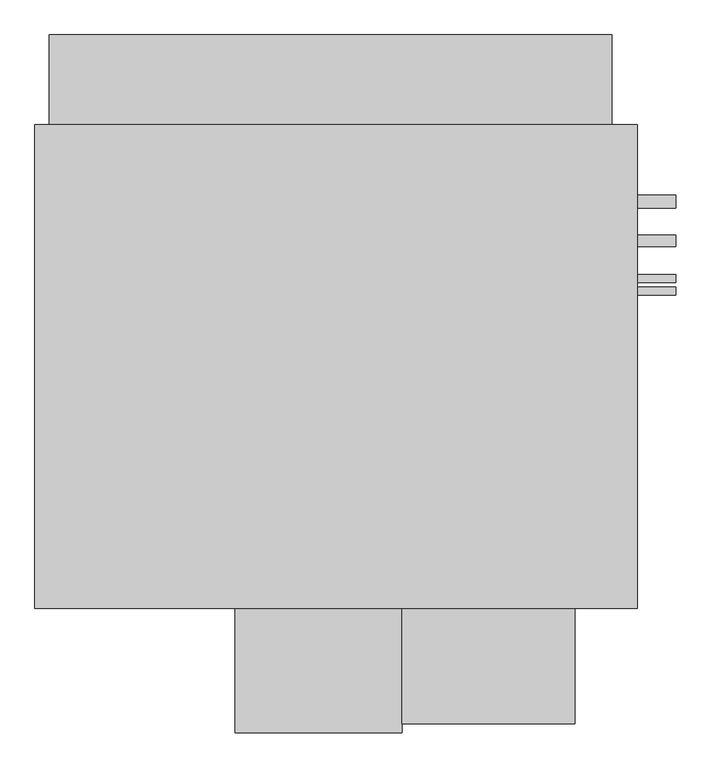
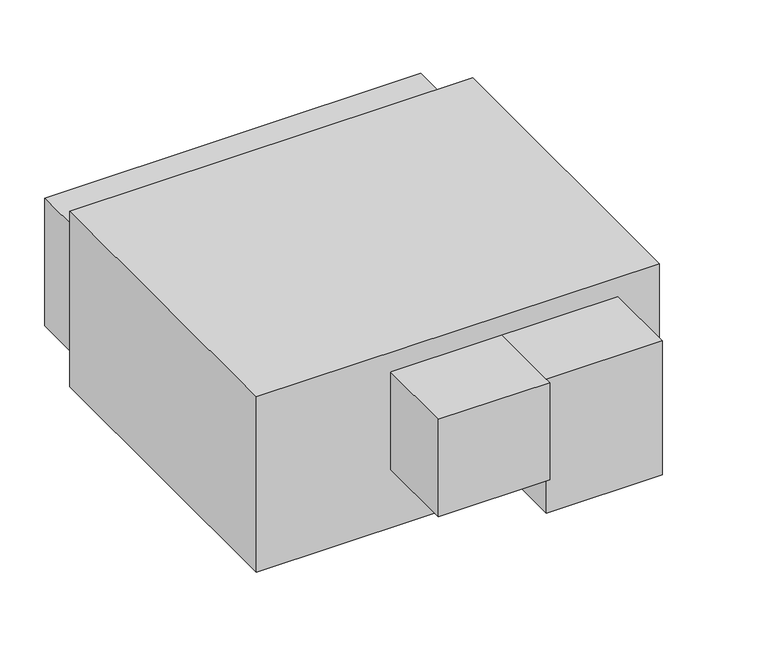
"""IFC4 building model written with IfcOpenShell, lengths in millimetres: proxy geometry, Horizontal_Direct_Drive_Blower_Coil_Unit_-_42DHA_-_CARRIER_-_4-Pipe_RH_2022 : Size 16 - 460v/60Hz/3Ph - 6/2 Coil."""

from ifc_helpers import new_model, si_unit, point, frame, frame_2d, origin, place, context, project, spatial, polyline, circle_curve, trimmed, segment, composite_curve, outline, extrude, source, transform, mapped, element, save


def mechanical_equipment_c9cec046(model_context):
    return source(origin(), model_context, "Body", "SweptSolid", [
        extrude(outline(polyline([(127.0, 492.125), (127.0, -466.725), (-1066.8, -466.725), (-1066.8, 492.125), (127.0, 492.125)])), frame((0.0, 0.0, -549.2558174), z_axis=(0.0, 0.0, 1.0), x_axis=(1.0, 0.0, 0.0)), (0.0, 0.0, 1.0), 549.2558174),
        extrude(outline(polyline([(3.175, -695.325), (-339.725, -695.325), (-339.725, -466.725), (3.175, -466.725), (3.175, -695.325)])), frame((0.0, 0.0, -479.4058174), z_axis=(0.0, 0.0, 1.0), x_axis=(1.0, 0.0, 0.0)), (0.0, 0.0, 1.0), 419.1),
        extrude(outline(composite_curve([segment(trimmed(circle_curve(frame_2d((339.725, -180.7500418)), 12.7), [point((352.425, -180.7500418))], [point((327.025, -180.7500418))], False, "CARTESIAN"), True, "CONTINUOUS"), segment(trimmed(circle_curve(frame_2d((339.725, -180.7500418)), 12.7), [point((327.025, -180.7500418))], [point((352.425, -180.7500418))], False, "CARTESIAN"), True, "CONTINUOUS")], self_intersect=False)), frame((127.0, 0.0, 0.0), z_axis=(1.0, 0.0, 0.0), x_axis=(0.0, 1.0, 0.0)), (0.0, 0.0, 1.0), 76.2),
        extrude(outline(composite_curve([segment(trimmed(circle_curve(frame_2d((339.725, -422.2558174)), 12.7), [point((352.425, -422.2558174))], [point((327.025, -422.2558174))], False, "CARTESIAN"), True, "CONTINUOUS"), segment(trimmed(circle_curve(frame_2d((339.725, -422.2558174)), 12.7), [point((327.025, -422.2558174))], [point((352.425, -422.2558174))], False, "CARTESIAN"), True, "CONTINUOUS")], self_intersect=False)), frame((127.0, 0.0, 0.0), z_axis=(1.0, 0.0, 0.0), x_axis=(0.0, 1.0, 0.0)), (0.0, 0.0, 1.0), 76.2),
        extrude(outline(composite_curve([segment(trimmed(circle_curve(frame_2d((261.7604089, -504.8058174)), 11.1125), [point((272.8729089, -504.8058174))], [point((250.6479089, -504.8058174))], False, "CARTESIAN"), True, "CONTINUOUS"), segment(trimmed(circle_curve(frame_2d((261.7604089, -504.8058174)), 11.1125), [point((250.6479089, -504.8058174))], [point((272.8729089, -504.8058174))], False, "CARTESIAN"), True, "CONTINUOUS")], self_intersect=False)), frame((127.0, 0.0, 0.0), z_axis=(1.0, 0.0, 0.0), x_axis=(0.0, 1.0, 0.0)), (0.0, 0.0, 1.0), 76.2),
        extrude(outline(composite_curve([segment(trimmed(circle_curve(frame_2d((187.325, -231.7558174)), 7.9375), [point((195.2625, -231.7558174))], [point((179.3875, -231.7558174))], False, "CARTESIAN"), True, "CONTINUOUS"), segment(trimmed(circle_curve(frame_2d((187.325, -231.7558174)), 7.9375), [point((179.3875, -231.7558174))], [point((195.2625, -231.7558174))], False, "CARTESIAN"), True, "CONTINUOUS")], self_intersect=False)), frame((127.0, 0.0, 0.0), z_axis=(1.0, 0.0, 0.0), x_axis=(0.0, 1.0, 0.0)), (0.0, 0.0, 1.0), 76.2),
        extrude(outline(composite_curve([segment(trimmed(circle_curve(frame_2d((161.925, -371.4558174)), 7.9375), [point((169.8625, -371.4558174))], [point((153.9875, -371.4558174))], False, "CARTESIAN"), True, "CONTINUOUS"), segment(trimmed(circle_curve(frame_2d((161.925, -371.4558174)), 7.9375), [point((153.9875, -371.4558174))], [point((169.8625, -371.4558174))], False, "CARTESIAN"), True, "CONTINUOUS")], self_intersect=False)), frame((127.0, 0.0, 0.0), z_axis=(1.0, 0.0, 0.0), x_axis=(0.0, 1.0, 0.0)), (0.0, 0.0, 1.0), 76.2),
        extrude(outline(polyline([(-1038.225, 669.925), (76.2, 669.925), (76.2, 492.125), (-1038.225, 492.125), (-1038.225, 669.925)])), frame((0.0, 0.0, -476.2308174), z_axis=(0.0, 0.0, 1.0), x_axis=(1.0, 0.0, 0.0)), (0.0, 0.0, 1.0), 400.05),
        extrude(outline(polyline([(-339.725, -712.7875), (-669.925, -712.7875), (-669.925, -466.725), (-339.725, -466.725), (-339.725, -712.7875)])), frame((0.0, 0.0, -365.1058174), z_axis=(0.0, 0.0, 1.0), x_axis=(1.0, 0.0, 0.0)), (0.0, 0.0, 1.0), 304.8),
    ])


if __name__ == "__main__":
    model = new_model("IFC4")
    model_context = context("Model", 3, world=origin())
    ifc_project = project(units=[si_unit("LENGTHUNIT", "METRE", prefix="MILLI")], contexts=[model_context])
    site = spatial("IfcSite", under=ifc_project)
    building = spatial("IfcBuilding", under=site)
    placement = place(None, origin())
    mechanical_equipment_shape = mechanical_equipment_c9cec046(model_context)
    element("IfcBuildingElementProxy", 1, Name="Horizontal_Direct_Drive_Blower_Coil_Unit_-_42DHA_-_CARRIER_-_4-Pipe_RH_2022 : Size 16 - 460v/60Hz/3Ph - 6/2 Coil", ObjectType="Horizontal_Direct_Drive_Blower_Coil_Unit_-_42DHA_-_CARRIER_-_4-Pipe_RH_2022 : Size 16 - 460v/60Hz/3Ph - 6/2 Coil", at=placement, inside=building, context=model_context, shape_type="MappedRepresentation", body=[
        mapped(mechanical_equipment_shape, transform((0.0, 0.0, 0.0), x_axis=(1.0, 0.0, 0.0), y_axis=(0.0, 1.0, 0.0), z_axis=(0.0, 0.0, 1.0))),
    ])
    save(model, "model.ifc")
